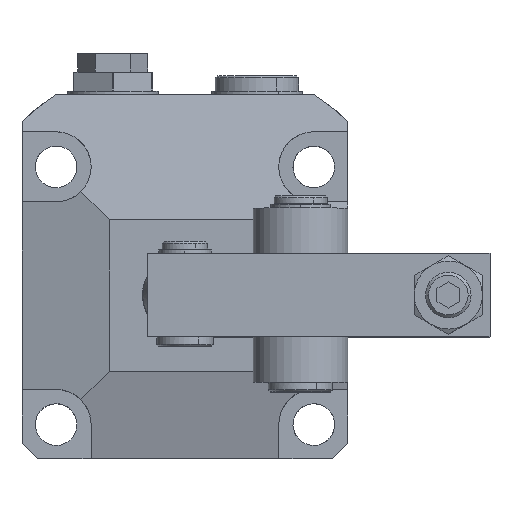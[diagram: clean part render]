
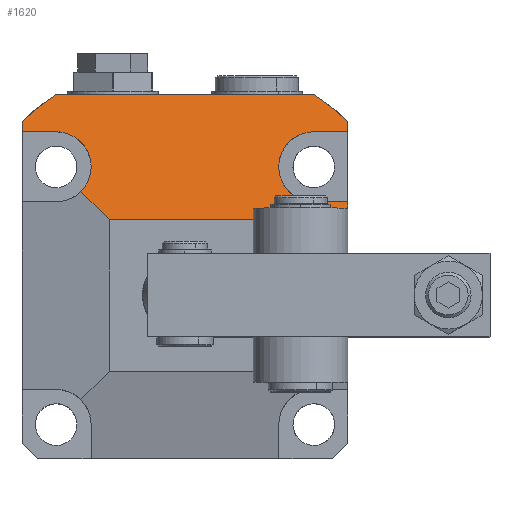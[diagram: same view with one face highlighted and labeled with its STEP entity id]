
A CAD part, top view. The second image highlights one B-rep face of the part: STEP entity #1620.
In plain terms, the highlighted planar face has unit normal (0, 0.259, 0.966).
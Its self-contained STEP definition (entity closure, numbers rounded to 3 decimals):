
#1477=AXIS2_PLACEMENT_3D('Plane Axis2P3D',#1474,#1475,#1476) ;
#1020=CARTESIAN_POINT('Vertex',(34.059,53.,86.158)) ;
#1036=CARTESIAN_POINT('Vertex',(-34.059,53.,86.158)) ;
#1039=CARTESIAN_POINT('Line Origine',(0.,53.,86.158)) ;
#1433=CARTESIAN_POINT('Vertex',(43.,46.043,88.022)) ;
#1437=CARTESIAN_POINT('Control Point',(34.059,53.,86.158)) ;
#1438=CARTESIAN_POINT('Control Point',(37.249,50.95,86.707)) ;
#1439=CARTESIAN_POINT('Control Point',(40.245,48.616,87.332)) ;
#1440=CARTESIAN_POINT('Control Point',(43.,46.043,88.022)) ;
#1458=CARTESIAN_POINT('Vertex',(-43.,46.043,88.022)) ;
#1462=CARTESIAN_POINT('Control Point',(-34.059,53.,86.158)) ;
#1463=CARTESIAN_POINT('Control Point',(-37.249,50.95,86.707)) ;
#1464=CARTESIAN_POINT('Control Point',(-40.245,48.616,87.332)) ;
#1465=CARTESIAN_POINT('Control Point',(-43.,46.043,88.022)) ;
#1474=CARTESIAN_POINT('Axis2P3D Location',(0.,91.171,75.93)) ;
#1479=CARTESIAN_POINT('Line Origine',(43.,44.647,88.396)) ;
#1483=CARTESIAN_POINT('Vertex',(43.,43.25,88.77)) ;
#1486=CARTESIAN_POINT('Line Origine',(-43.,44.647,88.396)) ;
#1490=CARTESIAN_POINT('Vertex',(-43.,43.25,88.77)) ;
#1493=CARTESIAN_POINT('Line Origine',(-38.5,43.25,88.77)) ;
#1497=CARTESIAN_POINT('Vertex',(-34.,43.25,88.77)) ;
#1501=CARTESIAN_POINT('Control Point',(-29.565,42.118,89.074)) ;
#1502=CARTESIAN_POINT('Control Point',(-30.333,42.537,88.961)) ;
#1503=CARTESIAN_POINT('Control Point',(-31.152,42.867,88.873)) ;
#1504=CARTESIAN_POINT('Control Point',(-32.01,43.098,88.811)) ;
#1505=CARTESIAN_POINT('Control Point',(-32.935,43.232,88.775)) ;
#1506=CARTESIAN_POINT('Control Point',(-33.862,43.249,88.77)) ;
#1507=CARTESIAN_POINT('Control Point',(-33.908,43.25,88.77)) ;
#1508=CARTESIAN_POINT('Control Point',(-33.954,43.25,88.77)) ;
#1509=CARTESIAN_POINT('Control Point',(-34.,43.25,88.77)) ;
#1510=CARTESIAN_POINT('Vertex',(-29.565,42.118,89.074)) ;
#1514=CARTESIAN_POINT('Control Point',(-29.565,42.118,89.074)) ;
#1515=CARTESIAN_POINT('Control Point',(-28.784,41.691,89.188)) ;
#1516=CARTESIAN_POINT('Control Point',(-28.056,41.171,89.327)) ;
#1517=CARTESIAN_POINT('Control Point',(-27.397,40.568,89.489)) ;
#1518=CARTESIAN_POINT('Control Point',(-26.228,39.21,89.853)) ;
#1519=CARTESIAN_POINT('Control Point',(-25.42,37.625,90.277)) ;
#1520=CARTESIAN_POINT('Control Point',(-25.111,36.781,90.504)) ;
#1521=CARTESIAN_POINT('Control Point',(-24.7,35.035,90.971)) ;
#1522=CARTESIAN_POINT('Control Point',(-24.716,33.245,91.451)) ;
#1523=CARTESIAN_POINT('Control Point',(-24.832,32.351,91.69)) ;
#1524=CARTESIAN_POINT('Control Point',(-25.245,30.738,92.123)) ;
#1525=CARTESIAN_POINT('Control Point',(-26.006,29.252,92.521)) ;
#1526=CARTESIAN_POINT('Control Point',(-26.427,28.605,92.694)) ;
#1527=CARTESIAN_POINT('Control Point',(-26.914,28.005,92.855)) ;
#1528=CARTESIAN_POINT('Control Point',(-27.459,27.459,93.001)) ;
#1529=CARTESIAN_POINT('Vertex',(-27.459,27.459,93.001)) ;
#1532=CARTESIAN_POINT('Line Origine',(-23.73,23.73,94.001)) ;
#1536=CARTESIAN_POINT('Vertex',(-20.,20.,95.)) ;
#1539=CARTESIAN_POINT('Line Origine',(11.5,20.,95.)) ;
#1543=CARTESIAN_POINT('Vertex',(43.,20.,95.)) ;
#1546=CARTESIAN_POINT('Line Origine',(43.,22.375,94.364)) ;
#1550=CARTESIAN_POINT('Vertex',(43.,24.75,93.727)) ;
#1553=CARTESIAN_POINT('Line Origine',(38.5,24.75,93.727)) ;
#1557=CARTESIAN_POINT('Vertex',(34.,24.75,93.727)) ;
#1561=CARTESIAN_POINT('Control Point',(34.,24.75,93.727)) ;
#1562=CARTESIAN_POINT('Control Point',(33.119,24.75,93.727)) ;
#1563=CARTESIAN_POINT('Control Point',(32.238,24.855,93.699)) ;
#1564=CARTESIAN_POINT('Control Point',(31.374,25.065,93.643)) ;
#1565=CARTESIAN_POINT('Control Point',(29.704,25.69,93.475)) ;
#1566=CARTESIAN_POINT('Control Point',(28.237,26.683,93.209)) ;
#1567=CARTESIAN_POINT('Control Point',(27.563,27.269,93.052)) ;
#1568=CARTESIAN_POINT('Control Point',(26.361,28.597,92.696)) ;
#1569=CARTESIAN_POINT('Control Point',(25.513,30.161,92.277)) ;
#1570=CARTESIAN_POINT('Control Point',(25.183,30.996,92.054)) ;
#1571=CARTESIAN_POINT('Control Point',(24.729,32.732,91.589)) ;
#1572=CARTESIAN_POINT('Control Point',(24.7,34.522,91.109)) ;
#1573=CARTESIAN_POINT('Control Point',(24.794,35.418,90.869)) ;
#1574=CARTESIAN_POINT('Control Point',(25.058,36.573,90.559)) ;
#1575=CARTESIAN_POINT('Control Point',(25.501,37.668,90.266)) ;
#1576=CARTESIAN_POINT('Control Point',(25.619,37.929,90.196)) ;
#1577=CARTESIAN_POINT('Control Point',(25.746,38.184,90.128)) ;
#1578=CARTESIAN_POINT('Control Point',(25.882,38.435,90.06)) ;
#1579=CARTESIAN_POINT('Vertex',(25.882,38.435,90.06)) ;
#1583=CARTESIAN_POINT('Control Point',(25.882,38.435,90.06)) ;
#1584=CARTESIAN_POINT('Control Point',(26.303,39.206,89.854)) ;
#1585=CARTESIAN_POINT('Control Point',(26.818,39.929,89.66)) ;
#1586=CARTESIAN_POINT('Control Point',(27.418,40.591,89.483)) ;
#1587=CARTESIAN_POINT('Control Point',(28.759,41.75,89.172)) ;
#1588=CARTESIAN_POINT('Control Point',(30.347,42.567,88.953)) ;
#1589=CARTESIAN_POINT('Control Point',(31.181,42.876,88.87)) ;
#1590=CARTESIAN_POINT('Control Point',(32.256,43.135,88.801)) ;
#1591=CARTESIAN_POINT('Control Point',(33.352,43.231,88.775)) ;
#1592=CARTESIAN_POINT('Control Point',(33.568,43.244,88.772)) ;
#1593=CARTESIAN_POINT('Control Point',(33.784,43.25,88.77)) ;
#1594=CARTESIAN_POINT('Control Point',(34.,43.25,88.77)) ;
#1595=CARTESIAN_POINT('Vertex',(34.,43.25,88.77)) ;
#1598=CARTESIAN_POINT('Line Origine',(38.5,43.25,88.77)) ;
#1040=DIRECTION('Vector Direction',(1.,0.,0.)) ;
#1475=DIRECTION('Axis2P3D Direction',(-0.,-0.259,-0.966)) ;
#1476=DIRECTION('Axis2P3D XDirection',(0.,-0.966,0.259)) ;
#1480=DIRECTION('Vector Direction',(0.,-0.966,0.259)) ;
#1487=DIRECTION('Vector Direction',(0.,-0.966,0.259)) ;
#1494=DIRECTION('Vector Direction',(-1.,0.,0.)) ;
#1533=DIRECTION('Vector Direction',(-0.695,0.695,-0.186)) ;
#1540=DIRECTION('Vector Direction',(-1.,0.,0.)) ;
#1547=DIRECTION('Vector Direction',(0.,-0.966,0.259)) ;
#1554=DIRECTION('Vector Direction',(1.,0.,0.)) ;
#1599=DIRECTION('Vector Direction',(1.,0.,0.)) ;
#1041=VECTOR('Line Direction',#1040,1.) ;
#1481=VECTOR('Line Direction',#1480,1.) ;
#1488=VECTOR('Line Direction',#1487,1.) ;
#1495=VECTOR('Line Direction',#1494,1.) ;
#1534=VECTOR('Line Direction',#1533,1.) ;
#1541=VECTOR('Line Direction',#1540,1.) ;
#1548=VECTOR('Line Direction',#1547,1.) ;
#1555=VECTOR('Line Direction',#1554,1.) ;
#1600=VECTOR('Line Direction',#1599,1.) ;
#1604=ORIENTED_EDGE('',*,*,#1485,.F.) ;
#1605=ORIENTED_EDGE('',*,*,#1441,.F.) ;
#1606=ORIENTED_EDGE('',*,*,#1043,.F.) ;
#1607=ORIENTED_EDGE('',*,*,#1466,.T.) ;
#1608=ORIENTED_EDGE('',*,*,#1492,.T.) ;
#1609=ORIENTED_EDGE('',*,*,#1499,.F.) ;
#1610=ORIENTED_EDGE('',*,*,#1512,.F.) ;
#1611=ORIENTED_EDGE('',*,*,#1531,.T.) ;
#1612=ORIENTED_EDGE('',*,*,#1538,.F.) ;
#1613=ORIENTED_EDGE('',*,*,#1545,.F.) ;
#1614=ORIENTED_EDGE('',*,*,#1552,.F.) ;
#1615=ORIENTED_EDGE('',*,*,#1559,.F.) ;
#1616=ORIENTED_EDGE('',*,*,#1581,.T.) ;
#1617=ORIENTED_EDGE('',*,*,#1597,.T.) ;
#1618=ORIENTED_EDGE('',*,*,#1602,.T.) ;
#1620=ADVANCED_FACE('Manifold Brep',(#1619),#1478,.F.) ;
#1436=B_SPLINE_CURVE_WITH_KNOTS('',3,(#1437,#1438,#1439,#1440),.UNSPECIFIED.,.F.,.U.,(4,4),(0.,16.27),.UNSPECIFIED.) ;
#1461=B_SPLINE_CURVE_WITH_KNOTS('',3,(#1462,#1463,#1464,#1465),.UNSPECIFIED.,.F.,.U.,(4,4),(0.,16.27),.UNSPECIFIED.) ;
#1500=B_SPLINE_CURVE_WITH_KNOTS('',5,(#1501,#1502,#1503,#1504,#1505,#1506,#1507,#1508,#1509),.UNSPECIFIED.,.F.,.U.,(6,3,6),(0.,6.249,6.575),.UNSPECIFIED.) ;
#1513=B_SPLINE_CURVE_WITH_KNOTS('',5,(#1514,#1515,#1516,#1517,#1518,#1519,#1520,#1521,#1522,#1523,#1524,#1525,#1526,#1527,#1528),.UNSPECIFIED.,.F.,.U.,(6,3,3,3,6),(0.,6.365,12.871,19.414,24.978),.UNSPECIFIED.) ;
#1560=B_SPLINE_CURVE_WITH_KNOTS('',5,(#1561,#1562,#1563,#1564,#1565,#1566,#1567,#1568,#1569,#1570,#1571,#1572,#1573,#1574,#1575,#1576,#1577,#1578),.UNSPECIFIED.,.F.,.U.,(6,3,3,3,3,6),(0.,6.245,12.603,19.103,25.648,27.725),.UNSPECIFIED.) ;
#1582=B_SPLINE_CURVE_WITH_KNOTS('',5,(#1583,#1584,#1585,#1586,#1587,#1588,#1589,#1590,#1591,#1592,#1593,#1594),.UNSPECIFIED.,.F.,.U.,(6,3,3,6),(0.,6.395,12.658,14.189),.UNSPECIFIED.) ;
#1043=EDGE_CURVE('',#1037,#1021,#1042,.T.) ;
#1441=EDGE_CURVE('',#1021,#1434,#1436,.T.) ;
#1466=EDGE_CURVE('',#1037,#1459,#1461,.T.) ;
#1485=EDGE_CURVE('',#1434,#1484,#1482,.T.) ;
#1492=EDGE_CURVE('',#1459,#1491,#1489,.T.) ;
#1499=EDGE_CURVE('',#1498,#1491,#1496,.T.) ;
#1512=EDGE_CURVE('',#1511,#1498,#1500,.T.) ;
#1531=EDGE_CURVE('',#1511,#1530,#1513,.T.) ;
#1538=EDGE_CURVE('',#1537,#1530,#1535,.T.) ;
#1545=EDGE_CURVE('',#1544,#1537,#1542,.T.) ;
#1552=EDGE_CURVE('',#1551,#1544,#1549,.T.) ;
#1559=EDGE_CURVE('',#1558,#1551,#1556,.T.) ;
#1581=EDGE_CURVE('',#1558,#1580,#1560,.T.) ;
#1597=EDGE_CURVE('',#1580,#1596,#1582,.T.) ;
#1602=EDGE_CURVE('',#1596,#1484,#1601,.T.) ;
#1603=EDGE_LOOP('',(#1604,#1605,#1606,#1607,#1608,#1609,#1610,#1611,#1612,#1613,#1614,#1615,#1616,#1617,#1618)) ;
#1619=FACE_OUTER_BOUND('',#1603,.T.) ;
#1042=LINE('Line',#1039,#1041) ;
#1482=LINE('Line',#1479,#1481) ;
#1489=LINE('Line',#1486,#1488) ;
#1496=LINE('Line',#1493,#1495) ;
#1535=LINE('Line',#1532,#1534) ;
#1542=LINE('Line',#1539,#1541) ;
#1549=LINE('Line',#1546,#1548) ;
#1556=LINE('Line',#1553,#1555) ;
#1601=LINE('Line',#1598,#1600) ;
#1478=PLANE('Plane',#1477) ;
#1021=VERTEX_POINT('',#1020) ;
#1037=VERTEX_POINT('',#1036) ;
#1434=VERTEX_POINT('',#1433) ;
#1459=VERTEX_POINT('',#1458) ;
#1484=VERTEX_POINT('',#1483) ;
#1491=VERTEX_POINT('',#1490) ;
#1498=VERTEX_POINT('',#1497) ;
#1511=VERTEX_POINT('',#1510) ;
#1530=VERTEX_POINT('',#1529) ;
#1537=VERTEX_POINT('',#1536) ;
#1544=VERTEX_POINT('',#1543) ;
#1551=VERTEX_POINT('',#1550) ;
#1558=VERTEX_POINT('',#1557) ;
#1580=VERTEX_POINT('',#1579) ;
#1596=VERTEX_POINT('',#1595) ;
